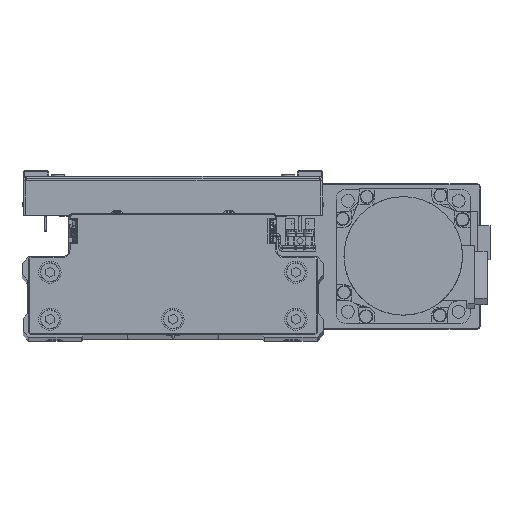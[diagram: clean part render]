
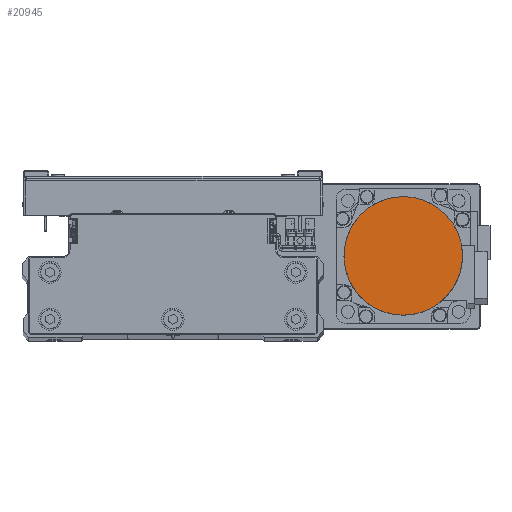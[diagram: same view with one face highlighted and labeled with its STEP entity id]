
A CAD part, top view. The second image highlights one B-rep face of the part: STEP entity #20945.
In plain terms, the highlighted planar face has unit normal (0, 0, 1) as drawn and (0, 0, -1) by its records, which use the part's own axes.
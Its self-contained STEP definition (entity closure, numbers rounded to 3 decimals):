
#16 = CARTESIAN_POINT ( 'NONE',  ( -6.871, -25.652, -109.7 ) ) ;
#195 = CARTESIAN_POINT ( 'NONE',  ( -23.819, 11.744, -109.7 ) ) ;
#235 = CARTESIAN_POINT ( 'NONE',  ( 22.998, -13.28, -109.7 ) ) ;
#3344 = CARTESIAN_POINT ( 'NONE',  ( 11.744, 23.819, -109.7 ) ) ;
#3387 = CARTESIAN_POINT ( 'NONE',  ( -13.28, -22.998, -109.7 ) ) ;
#3562 = CARTESIAN_POINT ( 'NONE',  ( -19.965, 17.512, -109.7 ) ) ;
#3600 = CARTESIAN_POINT ( 'NONE',  ( 17.512, -19.965, -109.7 ) ) ;
#6110 = DIRECTION ( 'NONE',  ( 0., 0., 1. ) ) ;
#6682 = CARTESIAN_POINT ( 'NONE',  ( 17.512, 19.965, -109.7 ) ) ;
#6726 = CARTESIAN_POINT ( 'NONE',  ( -19.965, -17.512, -109.7 ) ) ;
#6925 = CARTESIAN_POINT ( 'NONE',  ( -13.28, 22.998, -109.7 ) ) ;
#6972 = CARTESIAN_POINT ( 'NONE',  ( 11.744, -23.819, -109.7 ) ) ;
#7534 = ORIENTED_EDGE ( 'NONE', *, *, #10744, .F. ) ;
#9187 = CARTESIAN_POINT ( 'NONE',  ( -26.5, 0., -109.7 ) ) ;
#9468 = FACE_OUTER_BOUND ( 'NONE', #40605, .T. ) ;
#10050 = CARTESIAN_POINT ( 'NONE',  ( 22.998, 13.28, -109.7 ) ) ;
#10093 = CARTESIAN_POINT ( 'NONE',  ( -23.819, -11.744, -109.7 ) ) ;
#10272 = CARTESIAN_POINT ( 'NONE',  ( -6.871, 25.652, -109.7 ) ) ;
#10315 = CARTESIAN_POINT ( 'NONE',  ( 3.469, -26.329, -109.7 ) ) ;
#10511 = CARTESIAN_POINT ( 'NONE',  ( -26.5, 1.734, -109.7 ) ) ;
#10558 = CARTESIAN_POINT ( 'NONE',  ( 26.329, -3.469, -109.7 ) ) ;
#10744 = EDGE_CURVE ( 'NONE', #27617, #11489, #12919, .T. ) ;
#11489 = VERTEX_POINT ( 'NONE', #30660 ) ;
#12919 = B_SPLINE_CURVE_WITH_KNOTS ( 'NONE', 3,
 ( #30504, #44176, #13464, #27143, #40808, #10093, #23780, #37450, #6726, #20426, #34102, #3387, #17059, #30727, #16, #13679, #27355, #41026, #10315, #24014, #37694, #6972, #20657, #34326, #3600, #17270, #30941, #235, #13906, #27585, #41261, #10558, #24244, #37911 ),
 .UNSPECIFIED., .F., .F.,
 ( 4, 2, 2, 2, 2, 2, 2, 2, 2, 2, 2, 2, 2, 2, 2, 2, 4 ),
 ( 0., 0.063, 0.125, 0.188, 0.25, 0.312, 0.375, 0.437, 0.5, 0.562, 0.625, 0.687, 0.75, 0.813, 0.875, 0.938, 1. ),
 .UNSPECIFIED. ) ;
#13417 = CARTESIAN_POINT ( 'NONE',  ( 25.652, 6.871, -109.7 ) ) ;
#13464 = CARTESIAN_POINT ( 'NONE',  ( -26.329, -3.469, -109.7 ) ) ;
#13637 = CARTESIAN_POINT ( 'NONE',  ( 1.734, 26.5, -109.7 ) ) ;
#13679 = CARTESIAN_POINT ( 'NONE',  ( -3.469, -26.329, -109.7 ) ) ;
#13861 = CARTESIAN_POINT ( 'NONE',  ( -25.147, 8.539, -109.7 ) ) ;
#13906 = CARTESIAN_POINT ( 'NONE',  ( 23.819, -11.744, -109.7 ) ) ;
#15181 = EDGE_CURVE ( 'NONE', #11489, #27617, #23615, .T. ) ;
#16779 = CARTESIAN_POINT ( 'NONE',  ( 26.5, 0., -109.7 ) ) ;
#17014 = CARTESIAN_POINT ( 'NONE',  ( 8.539, 25.147, -109.7 ) ) ;
#17027 = CARTESIAN_POINT ( 'NONE',  ( 3.469, 26.329, -109.7 ) ) ;
#17059 = CARTESIAN_POINT ( 'NONE',  ( -11.744, -23.819, -109.7 ) ) ;
#17228 = CARTESIAN_POINT ( 'NONE',  ( -21.07, 16.165, -109.7 ) ) ;
#17270 = CARTESIAN_POINT ( 'NONE',  ( 19.965, -17.512, -109.7 ) ) ;
#19798 = DIRECTION ( 'NONE',  ( 1., 0., 0. ) ) ;
#20376 = CARTESIAN_POINT ( 'NONE',  ( 16.165, 21.07, -109.7 ) ) ;
#20426 = CARTESIAN_POINT ( 'NONE',  ( -17.512, -19.965, -109.7 ) ) ;
#20611 = CARTESIAN_POINT ( 'NONE',  ( -16.165, 21.07, -109.7 ) ) ;
#20657 = CARTESIAN_POINT ( 'NONE',  ( 13.28, -22.998, -109.7 ) ) ;
#20945 = ADVANCED_FACE ( 'NONE', ( #9468 ), #23148, .F. ) ;
#23148 = PLANE ( 'NONE',  #26416 ) ;
#23615 = B_SPLINE_CURVE_WITH_KNOTS ( 'NONE', 3,
 ( #16779, #30455, #44129, #13417, #27097, #40771, #10050, #23734, #37411, #6682, #20376, #34052, #3344, #17014, #30681, #17027, #13637, #27310, #40984, #10272, #23963, #37643, #6925, #20611, #34280, #3562, #17228, #30893, #195, #13861, #27535, #41214, #10511, #24194 ),
 .UNSPECIFIED., .F., .F.,
 ( 4, 2, 2, 2, 2, 2, 2, 2, 2, 2, 2, 2, 2, 2, 2, 2, 4 ),
 ( 0., 0.062, 0.125, 0.187, 0.25, 0.312, 0.375, 0.437, 0.5, 0.562, 0.625, 0.687, 0.75, 0.813, 0.875, 0.938, 1. ),
 .UNSPECIFIED. ) ;
#23734 = CARTESIAN_POINT ( 'NONE',  ( 21.07, 16.165, -109.7 ) ) ;
#23780 = CARTESIAN_POINT ( 'NONE',  ( -22.998, -13.28, -109.7 ) ) ;
#23963 = CARTESIAN_POINT ( 'NONE',  ( -8.539, 25.147, -109.7 ) ) ;
#24014 = CARTESIAN_POINT ( 'NONE',  ( 6.871, -25.652, -109.7 ) ) ;
#24194 = CARTESIAN_POINT ( 'NONE',  ( -26.5, 0., -109.7 ) ) ;
#24244 = CARTESIAN_POINT ( 'NONE',  ( 26.5, -1.734, -109.7 ) ) ;
#26416 = AXIS2_PLACEMENT_3D ( 'NONE', #36822, #6110, #19798 ) ;
#27097 = CARTESIAN_POINT ( 'NONE',  ( 25.147, 8.539, -109.7 ) ) ;
#27143 = CARTESIAN_POINT ( 'NONE',  ( -25.652, -6.871, -109.7 ) ) ;
#27310 = CARTESIAN_POINT ( 'NONE',  ( -1.734, 26.5, -109.7 ) ) ;
#27355 = CARTESIAN_POINT ( 'NONE',  ( -1.734, -26.5, -109.7 ) ) ;
#27535 = CARTESIAN_POINT ( 'NONE',  ( -25.652, 6.871, -109.7 ) ) ;
#27585 = CARTESIAN_POINT ( 'NONE',  ( 25.147, -8.539, -109.7 ) ) ;
#27617 = VERTEX_POINT ( 'NONE', #9187 ) ;
#28020 = ORIENTED_EDGE ( 'NONE', *, *, #15181, .F. ) ;
#30455 = CARTESIAN_POINT ( 'NONE',  ( 26.5, 1.734, -109.7 ) ) ;
#30504 = CARTESIAN_POINT ( 'NONE',  ( -26.5, 0., -109.7 ) ) ;
#30660 = CARTESIAN_POINT ( 'NONE',  ( 26.5, 0., -109.7 ) ) ;
#30681 = CARTESIAN_POINT ( 'NONE',  ( 6.871, 25.652, -109.7 ) ) ;
#30727 = CARTESIAN_POINT ( 'NONE',  ( -8.539, -25.147, -109.7 ) ) ;
#30893 = CARTESIAN_POINT ( 'NONE',  ( -22.998, 13.28, -109.7 ) ) ;
#30941 = CARTESIAN_POINT ( 'NONE',  ( 21.07, -16.165, -109.7 ) ) ;
#34052 = CARTESIAN_POINT ( 'NONE',  ( 13.28, 22.998, -109.7 ) ) ;
#34102 = CARTESIAN_POINT ( 'NONE',  ( -16.165, -21.07, -109.7 ) ) ;
#34280 = CARTESIAN_POINT ( 'NONE',  ( -17.512, 19.965, -109.7 ) ) ;
#34326 = CARTESIAN_POINT ( 'NONE',  ( 16.165, -21.07, -109.7 ) ) ;
#36822 = CARTESIAN_POINT ( 'NONE',  ( 0., 0., -109.7 ) ) ;
#37411 = CARTESIAN_POINT ( 'NONE',  ( 19.965, 17.512, -109.7 ) ) ;
#37450 = CARTESIAN_POINT ( 'NONE',  ( -21.07, -16.165, -109.7 ) ) ;
#37643 = CARTESIAN_POINT ( 'NONE',  ( -11.744, 23.819, -109.7 ) ) ;
#37694 = CARTESIAN_POINT ( 'NONE',  ( 8.539, -25.147, -109.7 ) ) ;
#37911 = CARTESIAN_POINT ( 'NONE',  ( 26.5, 0., -109.7 ) ) ;
#40605 = EDGE_LOOP ( 'NONE', ( #28020, #7534 ) ) ;
#40771 = CARTESIAN_POINT ( 'NONE',  ( 23.819, 11.744, -109.7 ) ) ;
#40808 = CARTESIAN_POINT ( 'NONE',  ( -25.147, -8.539, -109.7 ) ) ;
#40984 = CARTESIAN_POINT ( 'NONE',  ( -3.469, 26.329, -109.7 ) ) ;
#41026 = CARTESIAN_POINT ( 'NONE',  ( 1.734, -26.5, -109.7 ) ) ;
#41214 = CARTESIAN_POINT ( 'NONE',  ( -26.329, 3.469, -109.7 ) ) ;
#41261 = CARTESIAN_POINT ( 'NONE',  ( 25.652, -6.871, -109.7 ) ) ;
#44129 = CARTESIAN_POINT ( 'NONE',  ( 26.329, 3.469, -109.7 ) ) ;
#44176 = CARTESIAN_POINT ( 'NONE',  ( -26.5, -1.734, -109.7 ) ) ;
